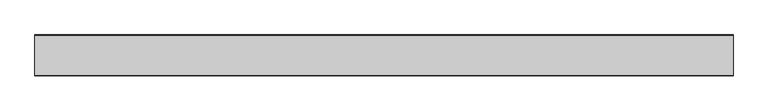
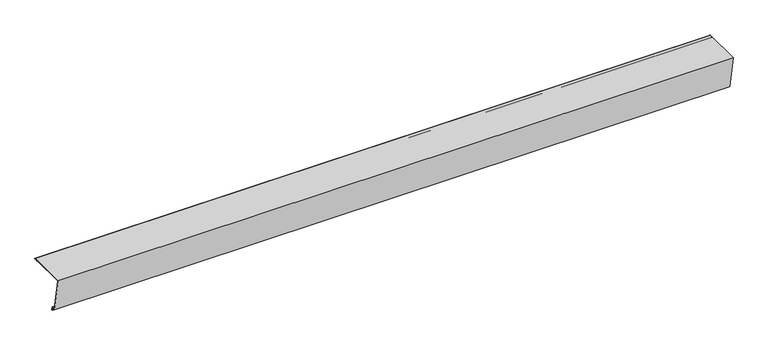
"""IFC4 building model written with IfcOpenShell, lengths in millimetres: proxy geometry, Faitiere simple plate : Faitiere simple plate."""

import ifcopenshell
import ifcopenshell.guid

model = None  # the IFC model being written
_history = None  # IfcOwnerHistory: only IFC2X3 demands one
_inside = {}  # id of a spatial element -> (the spatial element, [elements in it])
_under = {}  # id of a project, library or spatial element -> (it, [spatial elements below it])
_declared = {}  # id of a project -> (the project, [libraries it declares])
_typed = {}  # id of a type object -> (the type object, [elements of that type])
_made_of = {}  # id of a material, layer set ... -> (it, [elements and type objects made of it])


def new_model(schema):
    """Start an empty IFC model of exactly this schema.

    Asked for "IFC4X3", IfcOpenShell would pick the latest addendum, in which some entities
    have other attributes; the version numbers below select the first issue.
    IFC2X3 requires an IfcOwnerHistory on every rooted entity: one is made here for all.
    """
    global model, _history
    if schema == "IFC4X3":
        model = ifcopenshell.file(schema_version=(4, 3, 0, 0))
    else:
        model = ifcopenshell.file(schema=schema)
    _inside.clear()
    _under.clear()
    _declared.clear()
    _typed.clear()
    _made_of.clear()
    _history = None
    if model.schema == "IFC2X3":
        org = make("IfcOrganization", Name="unknown")
        user = make(
            "IfcPersonAndOrganization",
            ThePerson=make("IfcPerson", FamilyName="unknown"),
            TheOrganization=org,
        )
        app = make(
            "IfcApplication",
            ApplicationDeveloper=org,
            Version="unknown",
            ApplicationFullName="unknown",
            ApplicationIdentifier="unknown",
        )
        _history = make(
            "IfcOwnerHistory",
            OwningUser=user,
            OwningApplication=app,
            ChangeAction="ADDED",
            CreationDate=0,
        )
    return model


def make(cls, **values):
    """One entity of the class cls with the attributes given. An attribute that is None is left unset."""
    return model.create_entity(
        cls, **{name: value for name, value in values.items() if value is not None}
    )


def rooted(cls, **values):
    """An entity with a GlobalId (a new one), such as an element, a storey or a relation."""
    return make(cls, GlobalId=ifcopenshell.guid.new(), OwnerHistory=_history, **values)


def si_unit(unit_type, name, prefix=None):
    """IfcSIUnit, for example si_unit("LENGTHUNIT", "METRE", prefix="MILLI")."""
    return make("IfcSIUnit", UnitType=unit_type, Prefix=prefix, Name=name)


def assignment(units):
    """IfcUnitAssignment: the units of a project."""
    return None if units is None else make("IfcUnitAssignment", Units=units)


def point(xyz):
    """IfcCartesianPoint."""
    return None if xyz is None else make("IfcCartesianPoint", Coordinates=xyz)


def direction(xyz):
    """IfcDirection."""
    return None if xyz is None else make("IfcDirection", DirectionRatios=xyz)


def frame(location, z_axis=None, x_axis=None):
    """IfcAxis2Placement3D, a coordinate frame: its origin and axes. An axis left out is left unset."""
    return make(
        "IfcAxis2Placement3D",
        Location=point(location),
        Axis=direction(z_axis),
        RefDirection=direction(x_axis),
    )


def frame_2d(location, x_axis=None):
    """IfcAxis2Placement2D, a coordinate frame in the plane: its origin and x axis."""
    return make(
        "IfcAxis2Placement2D", Location=point(location), RefDirection=direction(x_axis)
    )


def origin():
    """The frame at (0, 0, 0) with its axes left unset."""
    return frame((0.0, 0.0, 0.0))


def place(relative_to, where):
    """IfcLocalPlacement: puts the frame where relative to a parent placement (None: the world)."""
    return make(
        "IfcLocalPlacement", PlacementRelTo=relative_to, RelativePlacement=where
    )


def context(
    kind, dimensions, precision=None, world=None, true_north=None, identifier=None
):
    """IfcGeometricRepresentationContext, for example the 3D "Model" context."""
    return make(
        "IfcGeometricRepresentationContext",
        ContextIdentifier=identifier,
        ContextType=kind,
        CoordinateSpaceDimension=dimensions,
        Precision=precision,
        WorldCoordinateSystem=world,
        TrueNorth=true_north,
    )


def project(units=None, contexts=None):
    """IfcProject with its units and contexts."""
    return rooted(
        "IfcProject",
        Name="project",
        RepresentationContexts=contexts,
        UnitsInContext=assignment(units),
    )


def spatial(cls, under=None, at=None, **own):
    """A site, building, storey or space (cls), placed at a placement, below another one or the project."""
    s = rooted(cls, ObjectPlacement=at, **own)
    if under is not None:
        _under.setdefault(under.id(), (under, []))[1].append(s)
    return s


def polyline(points):
    """IfcPolyline through the points."""
    return make("IfcPolyline", Points=[point(p) for p in points])


def circle_curve(where, radius):
    """IfcCircle in the frame where."""
    return make("IfcCircle", Position=where, Radius=radius)


def trimmed(basis, trim1, trim2, sense, master):
    """IfcTrimmedCurve: the piece of a basis curve between two trims."""
    return make(
        "IfcTrimmedCurve",
        BasisCurve=basis,
        Trim1=trim1,
        Trim2=trim2,
        SenseAgreement=sense,
        MasterRepresentation=master,
    )


def segment(curve, same_sense, transition):
    """IfcCompositeCurveSegment."""
    return make(
        "IfcCompositeCurveSegment",
        Transition=transition,
        SameSense=same_sense,
        ParentCurve=curve,
    )


def composite_curve(segments, self_intersect=None):
    """IfcCompositeCurve: segments joined end to end."""
    return make("IfcCompositeCurve", Segments=segments, SelfIntersect=self_intersect)


def outline(outer, holes=None, kind="AREA"):
    """IfcArbitraryClosedProfileDef: a profile drawn as a closed curve; with holes, ...WithVoids."""
    if holes is None:
        return make("IfcArbitraryClosedProfileDef", ProfileType=kind, OuterCurve=outer)
    return make(
        "IfcArbitraryProfileDefWithVoids",
        ProfileType=kind,
        OuterCurve=outer,
        InnerCurves=holes,
    )


def extrude(swept, where, along, depth):
    """IfcExtrudedAreaSolid: the profile swept, set in the frame where, extruded along a direction by depth."""
    return make(
        "IfcExtrudedAreaSolid",
        SweptArea=swept,
        Position=where,
        ExtrudedDirection=direction(along),
        Depth=depth,
    )


def shape(context_of_items, identifier, shape_type, items):
    """IfcShapeRepresentation: the items that make up one representation, for example the "Body"."""
    return make(
        "IfcShapeRepresentation",
        ContextOfItems=context_of_items,
        RepresentationIdentifier=identifier,
        RepresentationType=shape_type,
        Items=items,
    )


def source(mapping_origin, context_of_items, identifier, shape_type, items):
    """IfcRepresentationMap: a shape defined once, which mapped items show again and again."""
    return make(
        "IfcRepresentationMap",
        MappingOrigin=mapping_origin,
        MappedRepresentation=shape(context_of_items, identifier, shape_type, items),
    )


def transform(
    local_origin,
    x_axis=None,
    y_axis=None,
    z_axis=None,
    scale=None,
    scale2=None,
    scale3=None,
    uniform=True,
):
    """IfcCartesianTransformationOperator3D, or its non-uniform kind. x_axis, y_axis, z_axis: its Axis1, 2, 3."""
    if uniform:
        return make(
            "IfcCartesianTransformationOperator3D",
            Axis1=direction(x_axis),
            Axis2=direction(y_axis),
            LocalOrigin=point(local_origin),
            Scale=scale,
            Axis3=direction(z_axis),
        )
    return make(
        "IfcCartesianTransformationOperator3DnonUniform",
        Axis1=direction(x_axis),
        Axis2=direction(y_axis),
        LocalOrigin=point(local_origin),
        Scale=scale,
        Axis3=direction(z_axis),
        Scale2=scale2,
        Scale3=scale3,
    )


def mapped(mapping_source, mapping_target):
    """IfcMappedItem: shows the shape of a source again, moved by a transform."""
    return make(
        "IfcMappedItem", MappingSource=mapping_source, MappingTarget=mapping_target
    )


def made_of(thing, what):
    """Note that an element or type object is made of a material, layer set ...; save() writes the relation."""
    if what is not None:
        _made_of.setdefault(what.id(), (what, []))[1].append(thing)
    return thing


def element(
    cls,
    number,
    at=None,
    inside=None,
    cuts=None,
    type_object=None,
    material=None,
    context=None,
    identifier="Body",
    shape_type=None,
    held_by="IfcProductDefinitionShape",
    body=None,
    shapes=None,
    **own,
):
    """One element of the class cls, such as IfcWall. Its Tag is "e" and its number.

    at: its placement. inside: the storey or other place that contains it. cuts: it is an
    opening in that element (IfcRelVoidsElement). A single representation is given by context,
    identifier, shape_type and body (its items); several are given by shapes. held_by: the class
    of the entity that holds the representations. save() writes the other relations.
    """
    e = rooted(cls, Tag="e%d" % number, ObjectPlacement=at, **own)
    if body is not None:
        shapes = [shape(context, identifier, shape_type, body)]
    if shapes is not None:
        e.Representation = make(held_by, Representations=shapes)
    if inside is not None:
        _inside.setdefault(inside.id(), (inside, []))[1].append(e)
    if cuts is not None:
        rooted(
            "IfcRelVoidsElement", RelatingBuildingElement=cuts, RelatedOpeningElement=e
        )
    if type_object is not None:
        _typed.setdefault(type_object.id(), (type_object, []))[1].append(e)
    return made_of(e, material)


def aggregate(whole, parts):
    """IfcRelAggregates: a whole, such as a stair, and the parts it consists of."""
    return rooted("IfcRelAggregates", RelatingObject=whole, RelatedObjects=parts)


def save(model, path):
    """Write the relations noted so far, then the file.

    IfcRelAggregates (storeys below a building ...), IfcRelContainedInSpatialStructure (elements
    in a storey), IfcRelDefinesByType, IfcRelAssociatesMaterial and IfcRelDeclares: one each for
    every whole, place, type object, material and project.
    """
    for whole, parts in _under.values():
        aggregate(whole, parts)
    for where, things in _inside.values():
        rooted(
            "IfcRelContainedInSpatialStructure",
            RelatedElements=things,
            RelatingStructure=where,
        )
    for kind, things in _typed.values():
        rooted("IfcRelDefinesByType", RelatedObjects=things, RelatingType=kind)
    for what, things in _made_of.values():
        rooted("IfcRelAssociatesMaterial", RelatedObjects=things, RelatingMaterial=what)
    for by, libraries in _declared.values():
        rooted("IfcRelDeclares", RelatingContext=by, RelatedDefinitions=libraries)
    model.write(path)


def generic_models_05276f24(model_context):
    return source(origin(), model_context, "Body", "SweptSolid", [
        extrude(outline(composite_curve([segment(trimmed(circle_curve(frame_2d((165.9940784, -0.6836511)), 1.0), [point((165.9940784, 0.3163489))], [point((165.9940784, -1.6836511))], False, "CARTESIAN"), True, "CONTINUOUS"), segment(polyline([(165.9940784, -1.6836511), (150.9940784, -1.6836511)]), True, "CONTINUOUS"), segment(trimmed(circle_curve(frame_2d((150.9940784, -1.1836511)), 0.5), [point((150.9940784, -1.6836511))], [point((150.9940784, -0.6836511))], False, "CARTESIAN"), True, "CONTINUOUS"), segment(polyline([(150.9940784, -0.6836511), (-7.814168, -0.6836511), (18.7207055, -151.1703969), (33.4928218, -148.5656742), (36.2711927, -164.3225983), (35.2863849, -164.4962465), (32.6816622, -149.7241302), (17.909546, -152.3288528), (-9.0059216, 0.3163489), (165.9940784, 0.3163489)]), True, "CONTINUOUS")], self_intersect=False)), frame((0.0, 0.0, 0.0), z_axis=(1.0, 0.0, 0.0), x_axis=(0.0, 1.0, 0.0)), (0.0, 0.0, 1.0), 3001.0),
    ])


if __name__ == "__main__":
    model = new_model("IFC4")
    model_context = context("Model", 3, world=origin())
    ifc_project = project(units=[si_unit("LENGTHUNIT", "METRE", prefix="MILLI")], contexts=[model_context])
    site = spatial("IfcSite", under=ifc_project)
    building = spatial("IfcBuilding", under=site)
    placement = place(None, origin())
    generic_models_shape = generic_models_05276f24(model_context)
    element("IfcBuildingElementProxy", 1, Name="Faitiere simple plate : Faitiere simple plate", ObjectType="Faitiere simple plate : Faitiere simple plate", at=placement, inside=building, context=model_context, shape_type="MappedRepresentation", body=[
        mapped(generic_models_shape, transform((0.0, 0.0, 0.0), x_axis=(1.0, 0.0, 0.0), y_axis=(0.0, 1.0, 0.0), z_axis=(0.0, 0.0, 1.0))),
    ])
    save(model, "model.ifc")
